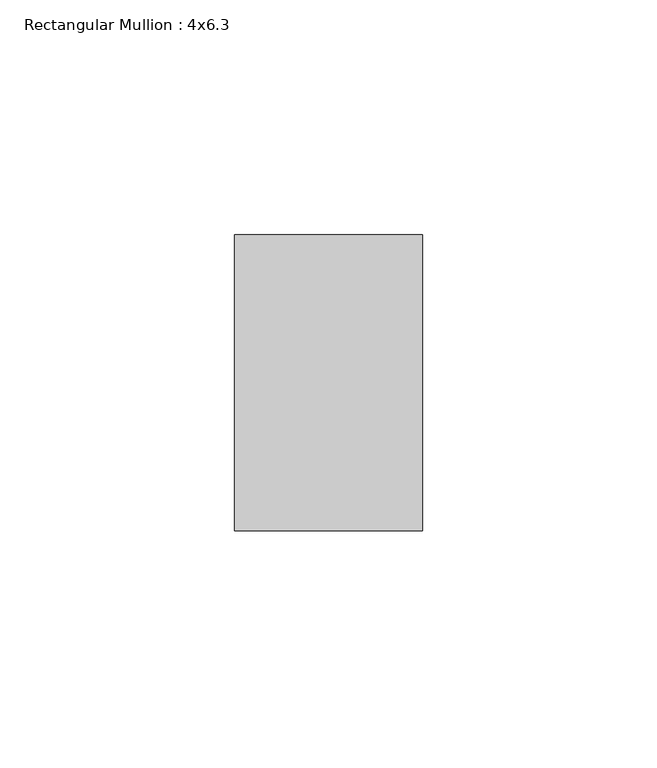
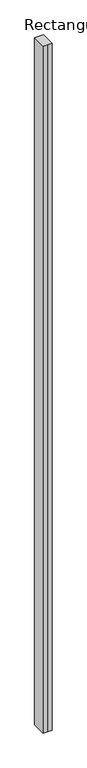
"""IFC4 building model written with IfcOpenShell, lengths in millimetres: member geometry, Rectangular Mullion : 4x6.3."""

from ifc_helpers import new_model, si_unit, frame, origin, place, context, project, spatial, polyline, outline, extrude, source, transform, mapped, element, save


def rectangular_mullion_4x6_3_d61276c6(model_context):
    return source(origin(), model_context, "Body", "SweptSolid", [
        extrude(outline(polyline([(-20.0, 20.0), (-20.0, 83.0), (20.0, 83.0), (20.0, 20.0), (0.0, 20.0), (-20.0, 20.0)])), frame((0.0, 0.0, -3210.1149927), z_axis=(0.0, 0.0, 1.0), x_axis=(1.0, 0.0, 0.0)), (0.0, 0.0, 1.0), 3210.1149927),
    ])


if __name__ == "__main__":
    model = new_model("IFC4")
    model_context = context("Model", 3, world=origin())
    ifc_project = project(units=[si_unit("LENGTHUNIT", "METRE", prefix="MILLI")], contexts=[model_context])
    site = spatial("IfcSite", under=ifc_project)
    building = spatial("IfcBuilding", under=site)
    placement = place(None, origin())
    rectangular_mullion_4x6_3_shape = rectangular_mullion_4x6_3_d61276c6(model_context)
    element("IfcMember", 1, ObjectType="Rectangular Mullion : 4x6.3", at=placement, inside=building, context=model_context, shape_type="MappedRepresentation", body=[
        mapped(rectangular_mullion_4x6_3_shape, transform((0.0, 0.0, 0.0), x_axis=(1.0, 0.0, 0.0), y_axis=(0.0, 1.0, 0.0), z_axis=(0.0, 0.0, 1.0))),
    ])
    save(model, "model.ifc")
